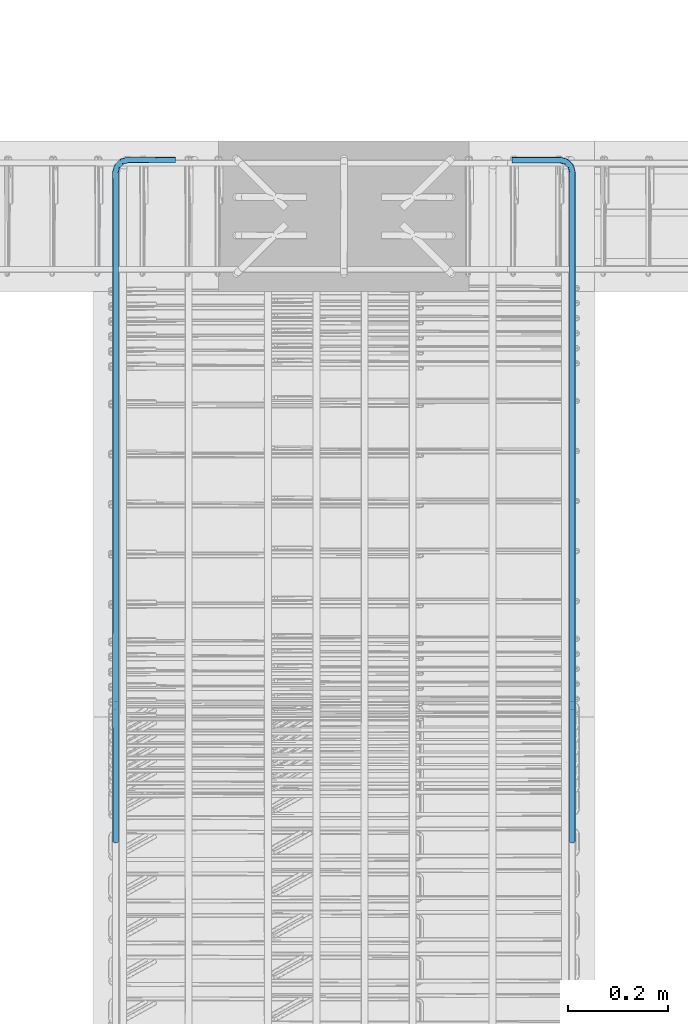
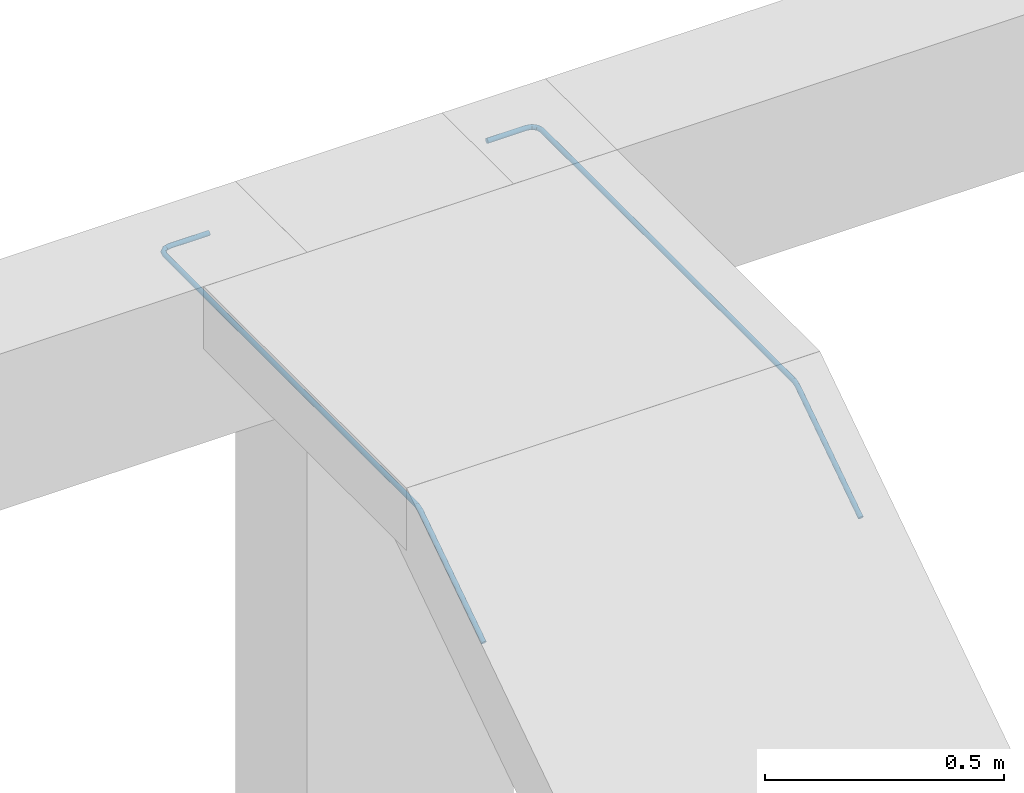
# One storey, part 5 of 24: 1 reinforcing bar.
"""IFC2X3 building model written with IfcOpenShell, lengths in metres."""

from ifc_helpers import new_model, entity, si_unit, direction, frame, origin, place, context, subcontext, project, spatial, shape, source, transform, mapped, element, save


model = new_model("IFC2X3")

# Units and contexts
model_context = context("Model", 3, precision=0.0, world=origin(), true_north=direction((0.0, 1.0)))
plan_context = context("Plan", 3, precision=0.0, world=origin(), true_north=direction((0.0, 1.0)))
body_context = subcontext(model_context, "Body", "Model", "MODEL_VIEW", scale=1.0)
ifc_project = project(units=[si_unit("LENGTHUNIT", "METRE"), si_unit("AREAUNIT", "SQUARE_METRE"), si_unit("VOLUMEUNIT", "CUBIC_METRE"), si_unit("PLANEANGLEUNIT", "RADIAN"), si_unit("THERMODYNAMICTEMPERATUREUNIT", "DEGREE_CELSIUS"), si_unit("FORCEUNIT", "NEWTON"), si_unit("MASSUNIT", "GRAM", prefix="KILO")], contexts=[model_context, plan_context])

# Site, building, storey
placement = place(None, origin())
site = spatial("IfcSite", under=ifc_project, at=placement, Name="Default Site", CompositionType="ELEMENT")
building = spatial("IfcBuilding", under=site, at=placement, Name="Default Building", CompositionType="ELEMENT")
storey_placement = place(placement, frame((0.0, 0.0, 3.3), z_axis=(1.0, 0.0, 0.0), x_axis=(0.0, 0.0, 1.0)))
storey = spatial("IfcBuildingStorey", under=building, at=storey_placement, Name="Piano 2", CompositionType="ELEMENT", Elevation=3.3)

# Reinforcing bar
shared_shape_1 = source(origin(), body_context, None, "AdvancedSweptSolid", [
    entity("IfcSweptDiskSolid", entity("IfcCompositeCurve", [entity("IfcCompositeCurveSegment", "CONTINUOUS", True, entity("IfcPolyline", [entity("IfcCartesianPoint", [0.0, 0.0, 0.0]), entity("IfcCartesianPoint", [0.0, 0.265958, 0.177306]), entity("IfcCartesianPoint", [0.0, 0.279271, 0.181336]), entity("IfcCartesianPoint", [0.0, 1.247783, 0.181336]), entity("IfcCartesianPoint", [0.0, 1.335783, 0.181336]), entity("IfcCartesianPoint", [0.003215, 1.347783, 0.181336]), entity("IfcCartesianPoint", [0.012, 1.356567, 0.181336]), entity("IfcCartesianPoint", [0.024, 1.359783, 0.181336]), entity("IfcCartesianPoint", [0.12, 1.359783, 0.181336])]))], False), 0.006, 0.0, 0.0),
])
shared_shape_2 = source(origin(), body_context, None, "MappedRepresentation", [mapped(shared_shape_1, transform((-4.456, 3.752217, 3.039664)))])
shared_shape_3 = source(origin(), body_context, None, "AdvancedSweptSolid", [
    entity("IfcSweptDiskSolid", entity("IfcCompositeCurve", [entity("IfcCompositeCurveSegment", "CONTINUOUS", True, entity("IfcPolyline", [entity("IfcCartesianPoint", [0.0, 0.0, 0.0]), entity("IfcCartesianPoint", [0.0, 0.265958, 0.177306]), entity("IfcCartesianPoint", [0.0, 0.279271, 0.181336]), entity("IfcCartesianPoint", [0.0, 1.247783, 0.181336]), entity("IfcCartesianPoint", [0.0, 1.335783, 0.181336]), entity("IfcCartesianPoint", [-0.003215, 1.347783, 0.181336]), entity("IfcCartesianPoint", [-0.012, 1.356567, 0.181336]), entity("IfcCartesianPoint", [-0.024, 1.359783, 0.181336]), entity("IfcCartesianPoint", [-0.12, 1.359783, 0.181336])]))], False), 0.006, 0.0, 0.0),
])
shared_shape_4 = source(origin(), body_context, None, "MappedRepresentation", [mapped(shared_shape_3, transform((-3.544, 3.752217, 3.039664)))])
element("IfcReinforcingBar", 1, at=placement, inside=storey, Name="Arm Generica; Trave:3 [Piano:2]", BarLength=3.046666, BarRole="NOTDEFINED", BarSurface="TEXTURED", NominalDiameter=0.012, shapes=[
    shape(body_context, None, "MappedRepresentation", [mapped(shared_shape_2, transform((0.0, 0.0, 0.0))), mapped(shared_shape_4, transform((0.0, 0.0, 0.0)))]),
])

save(model, "model.ifc")
